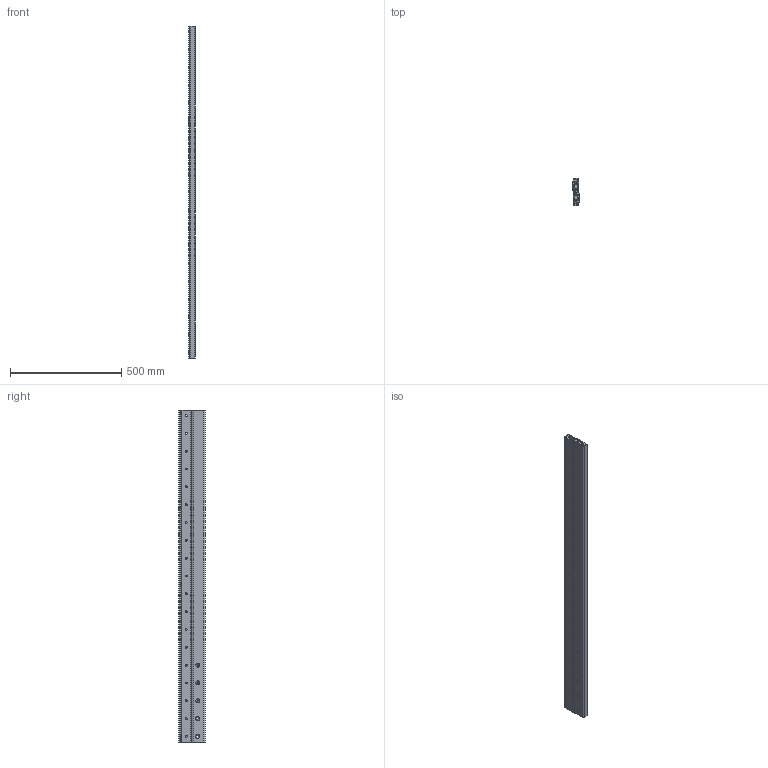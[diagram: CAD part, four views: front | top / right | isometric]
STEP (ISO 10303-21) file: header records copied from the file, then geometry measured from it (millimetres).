
FILE_DESCRIPTION(('STEP AP214'),'1');
FILE_NAME('rail_dss43-1490_00.stp','2017-04-17T03:59:57',('TraceParts'),('TraceParts S.A.'),'Spatial InterOp 3D',' ',' ');
FILE_SCHEMA(('automotive_design'));
Length unit declared in the file: millimetre
Products named in the file (3): rail_dss43-1490_00_1; rail_dss43-1490_00_2; rail_dss43-1490_00_3
Bounding box: 28 x 120 x 1490 mm (x, y, z)
Volume: 2641310.6 mm3; surface area: 1063218.3 mm2
Topology: 3 solids, 3 shells, 362 faces, 962 edges, 616 vertices
Faces by surface type: cylinder 148, plane 138, cone 76
Entity records: 11523 total; most frequent: DIRECTION 2080, CARTESIAN_POINT 1943, ORIENTED_EDGE 1924, EDGE_CURVE 962, AXIS2_PLACEMENT_3D 753, VERTEX_POINT 616, LINE 574, VECTOR 574
